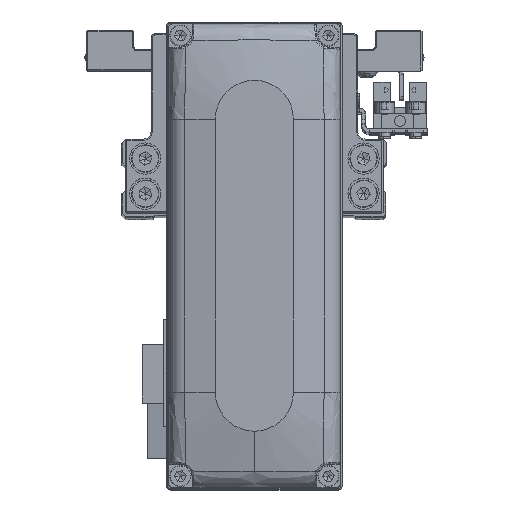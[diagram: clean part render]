
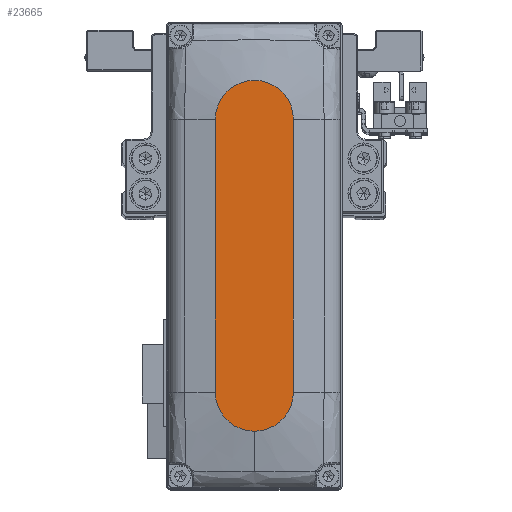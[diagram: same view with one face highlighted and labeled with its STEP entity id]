
A CAD part, top view. The second image highlights one B-rep face of the part: STEP entity #23665.
In plain terms, the highlighted planar face has unit normal (0, 0, 1).
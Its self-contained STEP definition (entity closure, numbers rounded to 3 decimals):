
#49 = CARTESIAN_POINT ( 'NONE',  ( -35., 0., 28. ) ) ;
#71 = CIRCLE ( 'NONE', #22025, 10. ) ;
#416 = EDGE_CURVE ( 'NONE', #13799, #30729, #30564, .T. ) ;
#656 = AXIS2_PLACEMENT_3D ( 'NONE', #28582, #1681, #13679 ) ;
#1681 = DIRECTION ( 'NONE',  ( 0., 0., 1. ) ) ;
#2614 = ORIENTED_EDGE ( 'NONE', *, *, #25691, .T. ) ;
#2623 = CARTESIAN_POINT ( 'NONE',  ( -35., -10., 28. ) ) ;
#4604 = FACE_OUTER_BOUND ( 'NONE', #34750, .T. ) ;
#5413 = DIRECTION ( 'NONE',  ( 0., 0., 1. ) ) ;
#5740 = DIRECTION ( 'NONE',  ( 1., 0., 0. ) ) ;
#6285 = CARTESIAN_POINT ( 'NONE',  ( 35., -10., 28. ) ) ;
#7440 = VECTOR ( 'NONE', #9126, 1000. ) ;
#9126 = DIRECTION ( 'NONE',  ( -1., 0., 0. ) ) ;
#12049 = DIRECTION ( 'NONE',  ( 0., 0., 1. ) ) ;
#13241 = EDGE_CURVE ( 'NONE', #30729, #24959, #16056, .T. ) ;
#13679 = DIRECTION ( 'NONE',  ( 1., 0., 0. ) ) ;
#13799 = VERTEX_POINT ( 'NONE', #6285 ) ;
#14364 = VERTEX_POINT ( 'NONE', #16668 ) ;
#14634 = DIRECTION ( 'NONE',  ( 1., 0., 0. ) ) ;
#16056 = CIRCLE ( 'NONE', #37951, 10. ) ;
#16310 = CARTESIAN_POINT ( 'NONE',  ( 35., 10., 28. ) ) ;
#16634 = PLANE ( 'NONE',  #656 ) ;
#16668 = CARTESIAN_POINT ( 'NONE',  ( -35., 10., 28. ) ) ;
#17192 = ORIENTED_EDGE ( 'NONE', *, *, #20283, .T. ) ;
#17434 = DIRECTION ( 'NONE',  ( 1., 0., 0. ) ) ;
#19872 = ORIENTED_EDGE ( 'NONE', *, *, #13241, .T. ) ;
#20283 = EDGE_CURVE ( 'NONE', #24959, #14364, #24053, .T. ) ;
#20691 = CARTESIAN_POINT ( 'NONE',  ( 35., 0., 28. ) ) ;
#22025 = AXIS2_PLACEMENT_3D ( 'NONE', #49, #12049, #24007 ) ;
#23205 = ORIENTED_EDGE ( 'NONE', *, *, #35357, .T. ) ;
#23665 = ADVANCED_FACE ( 'NONE', ( #4604 ), #16634, .T. ) ;
#24007 = DIRECTION ( 'NONE',  ( 1., 0., 0. ) ) ;
#24053 = LINE ( 'NONE', #36004, #7440 ) ;
#24959 = VERTEX_POINT ( 'NONE', #16310 ) ;
#25691 = EDGE_CURVE ( 'NONE', #14364, #34716, #71, .T. ) ;
#28582 = CARTESIAN_POINT ( 'NONE',  ( 0., 0., 28. ) ) ;
#28620 = CARTESIAN_POINT ( 'NONE',  ( -35., -10., 28. ) ) ;
#28634 = VECTOR ( 'NONE', #14634, 1000. ) ;
#29539 = LINE ( 'NONE', #2623, #28634 ) ;
#30537 = AXIS2_PLACEMENT_3D ( 'NONE', #20691, #32636, #5740 ) ;
#30564 = CIRCLE ( 'NONE', #30537, 10. ) ;
#30729 = VERTEX_POINT ( 'NONE', #35901 ) ;
#32309 = CARTESIAN_POINT ( 'NONE',  ( 35., 0., 28. ) ) ;
#32636 = DIRECTION ( 'NONE',  ( 0., 0., 1. ) ) ;
#34716 = VERTEX_POINT ( 'NONE', #28620 ) ;
#34750 = EDGE_LOOP ( 'NONE', ( #17192, #2614, #23205, #36414, #19872 ) ) ;
#35357 = EDGE_CURVE ( 'NONE', #34716, #13799, #29539, .T. ) ;
#35901 = CARTESIAN_POINT ( 'NONE',  ( 45., 0., 28. ) ) ;
#36004 = CARTESIAN_POINT ( 'NONE',  ( -35., 10., 28. ) ) ;
#36414 = ORIENTED_EDGE ( 'NONE', *, *, #416, .T. ) ;
#37951 = AXIS2_PLACEMENT_3D ( 'NONE', #32309, #5413, #17434 ) ;
